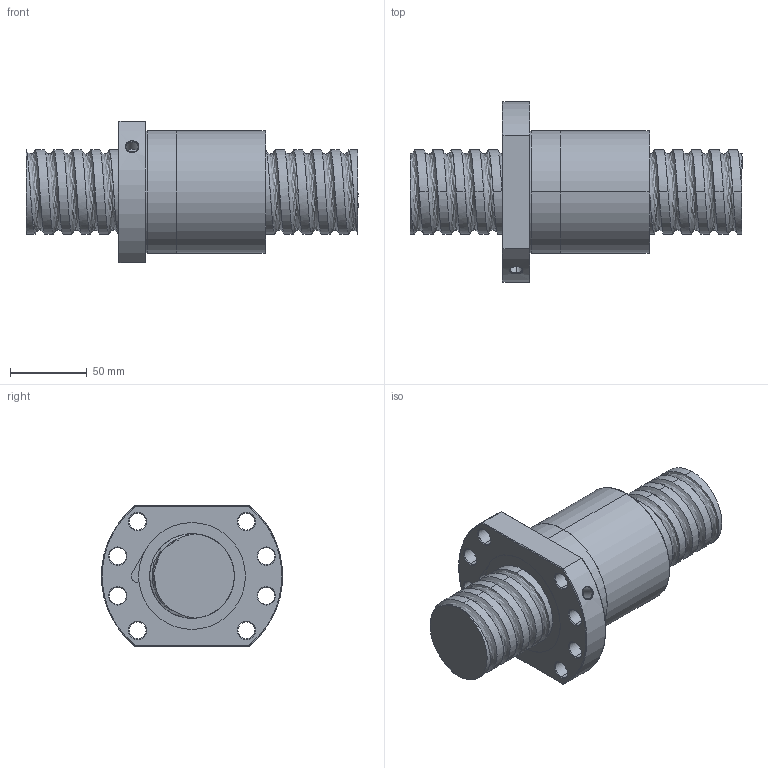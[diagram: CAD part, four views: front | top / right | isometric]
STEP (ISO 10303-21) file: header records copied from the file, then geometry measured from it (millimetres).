
FILE_DESCRIPTION (( 'STEP AP214' ), '1' );
FILE_NAME ('FSDC05512T5-F-C.STEP', '2010-06-25T12:14:48', ( 'XPAUTO' ), ( 'XPAUTO' ), 'SwSTEP 2.0', 'SolidWorks 2007', '' );
FILE_SCHEMA (( 'AUTOMOTIVE_DESIGN' ));
Length unit declared in the file: millimetre
Products named in the file (3): FSDC05512T5-F-C; FSDC05512T5-F-C.sldasm-Part-2_預設; FSDC05512T5-F-C.sldasm-Part-1_預設
Assembly tree (2 placements, depth 2):
  FSDC05512T5-F-C
    FSDC05512T5-F-C.sldasm-Part-2_預設
    FSDC05512T5-F-C.sldasm-Part-1_預設
Bounding box: 216 x 117.61 x 92 mm (x, y, z)
Volume: 798286.5 mm3; surface area: 109691.7 mm2
Topology: 2 solids, 2 shells, 142 faces, 352 edges, 219 vertices
Faces by surface type: cylinder 77, cone 32, plane 22, torus 6, bspline 5
Entity records: 27385 total; most frequent: CARTESIAN_POINT 24013, ORIENTED_EDGE 704, DIRECTION 658, EDGE_CURVE 352, AXIS2_PLACEMENT_3D 266, VERTEX_POINT 219, EDGE_LOOP 167, FACE_OUTER_BOUND 142
